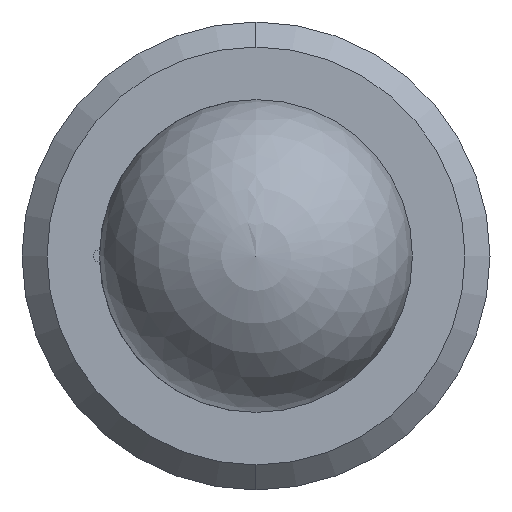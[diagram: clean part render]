
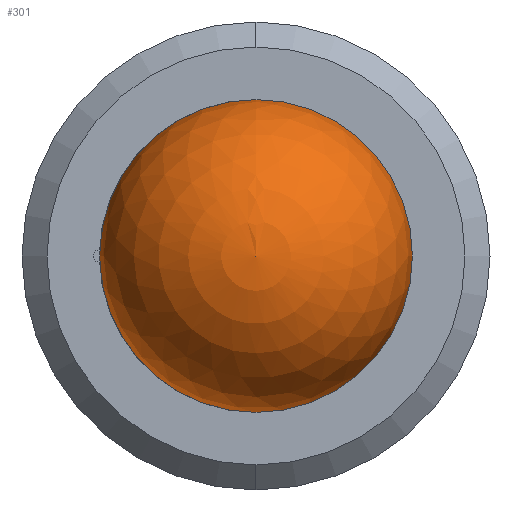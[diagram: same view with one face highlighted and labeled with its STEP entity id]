
A CAD part, left-side view. The second image highlights one B-rep face of the part: STEP entity #301.
In plain terms, the highlighted spherical face has radius 1.587 mm.
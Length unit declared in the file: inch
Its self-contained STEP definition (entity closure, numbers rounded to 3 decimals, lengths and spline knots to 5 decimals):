
#61 = VERTEX_POINT ( 'NONE', #534 ) ;
#148 = AXIS2_PLACEMENT_3D ( 'NONE', #711, #367, #765 ) ;
#172 = AXIS2_PLACEMENT_3D ( 'NONE', #666, #319, #723 ) ;
#185 = AXIS2_PLACEMENT_3D ( 'NONE', #330, #360, #759 ) ;
#301 = ADVANCED_FACE ( 'NONE', ( #616 ), #600, .T. ) ;
#319 = DIRECTION ( 'NONE',  ( -1., 0., 0. ) ) ;
#330 = CARTESIAN_POINT ( 'NONE',  ( 0., 0., 0. ) ) ;
#360 = DIRECTION ( 'NONE',  ( -1., 0., 0. ) ) ;
#367 = DIRECTION ( 'NONE',  ( 1., 0., 0. ) ) ;
#408 = ORIENTED_EDGE ( 'NONE', *, *, #425, .T. ) ;
#425 = EDGE_CURVE ( 'NONE', #592, #61, #731, .T. ) ;
#438 = EDGE_CURVE ( 'NONE', #592, #61, #549, .T. ) ;
#534 = CARTESIAN_POINT ( 'NONE',  ( 0., -0.0625, 0. ) ) ;
#549 = CIRCLE ( 'NONE', #148, 0.0625 ) ;
#592 = VERTEX_POINT ( 'NONE', #694 ) ;
#600 = SPHERICAL_SURFACE ( 'NONE', #185, 0.0625 ) ;
#616 = FACE_OUTER_BOUND ( 'NONE', #768, .T. ) ;
#625 = ORIENTED_EDGE ( 'NONE', *, *, #438, .F. ) ;
#666 = CARTESIAN_POINT ( 'NONE',  ( 0., 0., 0. ) ) ;
#694 = CARTESIAN_POINT ( 'NONE',  ( 0., 0.0625, 0. ) ) ;
#711 = CARTESIAN_POINT ( 'NONE',  ( 0., 0., 0. ) ) ;
#723 = DIRECTION ( 'NONE',  ( 0., 0., 1. ) ) ;
#731 = CIRCLE ( 'NONE', #172, 0.0625 ) ;
#759 = DIRECTION ( 'NONE',  ( 0., 0., 1. ) ) ;
#765 = DIRECTION ( 'NONE',  ( 0., 0., -1. ) ) ;
#768 = EDGE_LOOP ( 'NONE', ( #625, #408 ) ) ;
